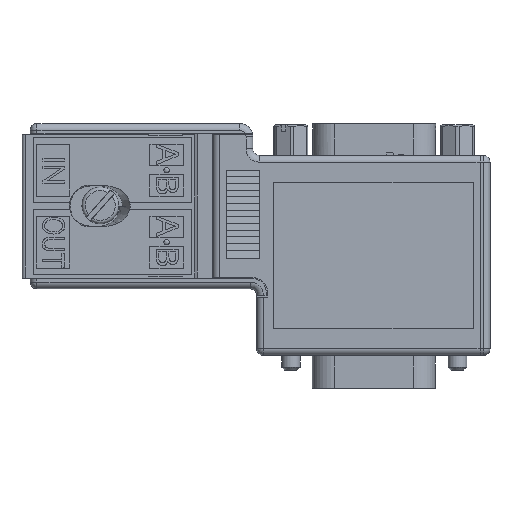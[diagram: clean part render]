
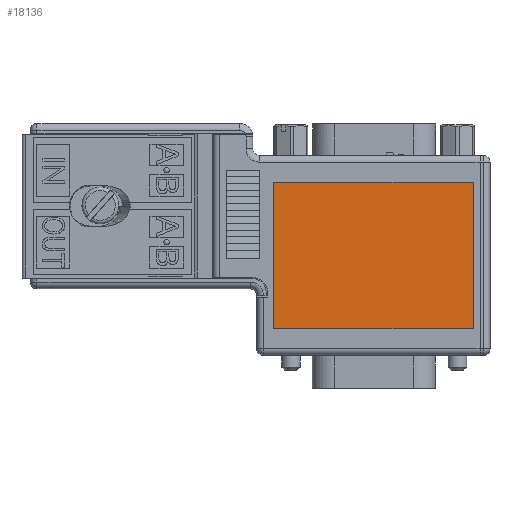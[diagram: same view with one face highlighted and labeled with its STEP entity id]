
A CAD part, top view. The second image highlights one B-rep face of the part: STEP entity #18136.
In plain terms, the highlighted planar face has unit normal (0, 0, 1).
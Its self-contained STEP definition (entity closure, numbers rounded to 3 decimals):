
#1610=LINE('',#29256,#3456);
#1614=LINE('',#29264,#3460);
#1617=LINE('',#29270,#3463);
#1620=LINE('',#29275,#3466);
#3456=VECTOR('',#22579,22.);
#3460=VECTOR('',#22585,30.);
#3463=VECTOR('',#22590,22.);
#3466=VECTOR('',#22595,30.);
#4881=FACE_OUTER_BOUND('',#5937,.T.);
#5937=EDGE_LOOP('',(#13858,#13859,#13860,#13861));
#8129=VERTEX_POINT('',#29254);
#8130=VERTEX_POINT('',#29255);
#8133=VERTEX_POINT('',#29263);
#8135=VERTEX_POINT('',#29269);
#10221=EDGE_CURVE('',#8129,#8130,#1610,.T.);
#10225=EDGE_CURVE('',#8130,#8133,#1614,.T.);
#10228=EDGE_CURVE('',#8133,#8135,#1617,.T.);
#10231=EDGE_CURVE('',#8135,#8129,#1620,.T.);
#13858=ORIENTED_EDGE('',*,*,#10221,.T.);
#13859=ORIENTED_EDGE('',*,*,#10225,.T.);
#13860=ORIENTED_EDGE('',*,*,#10228,.T.);
#13861=ORIENTED_EDGE('',*,*,#10231,.T.);
#16390=PLANE('',#19308);
#18136=ADVANCED_FACE('',(#4881),#16390,.F.);
#19308=AXIS2_PLACEMENT_3D('',#29277,#22597,#22598);
#22579=DIRECTION('',(0.,1.,0.));
#22585=DIRECTION('',(-1.,0.,0.));
#22590=DIRECTION('',(0.,-1.,0.));
#22595=DIRECTION('',(1.,0.,0.));
#22597=DIRECTION('center_axis',(0.,0.,
-1.));
#22598=DIRECTION('ref_axis',(-1.,0.,0.));
#29254=CARTESIAN_POINT('',(-2.5,4.,16.4));
#29255=CARTESIAN_POINT('',(-2.5,26.,16.4));
#29256=CARTESIAN_POINT('',(-2.5,26.,16.4));
#29263=CARTESIAN_POINT('',(-32.5,26.,16.4));
#29264=CARTESIAN_POINT('',(-32.5,26.,16.4));
#29269=CARTESIAN_POINT('',(-32.5,4.,16.4));
#29270=CARTESIAN_POINT('',(-32.5,4.,16.4));
#29275=CARTESIAN_POINT('',(-2.5,4.,16.4));
#29277=CARTESIAN_POINT('Origin',(-17.5,15.,16.4));
